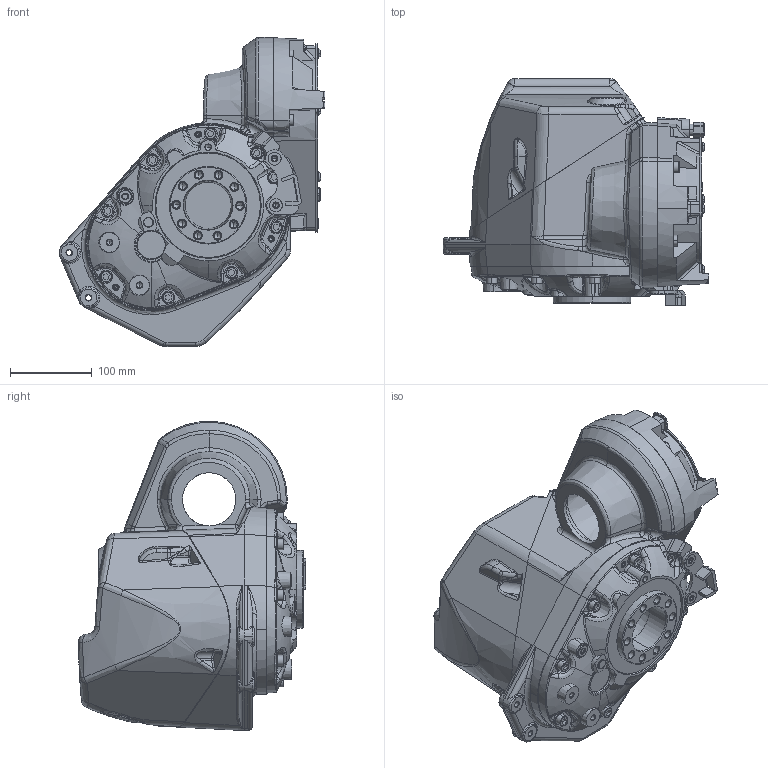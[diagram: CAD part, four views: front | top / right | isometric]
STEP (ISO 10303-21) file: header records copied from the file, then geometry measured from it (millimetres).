
FILE_DESCRIPTION (( 'STEP AP214' ), '1' );
FILE_NAME ('IRB1600ID_6-155_IRC5_rev0_LINK3.STEP', '2016-03-24T06:26:02', ( 'ABB' ), ( 'ABB' ), 'SwSTEP 2.0', 'SolidWorks 2014', '' );
FILE_SCHEMA (( 'AUTOMOTIVE_DESIGN' ));
Length unit declared in the file: millimetre
Products named in the file (1): IRB1600ID_6-155_IRC5_rev0_LINK3
Bounding box: 325.5 x 277.98 x 378.52 mm (x, y, z)
Volume: 11500876.9 mm3; surface area: 746914.9 mm2
Topology: 42 solids, 44 shells, 1883 faces, 4679 edges, 2922 vertices
Faces by surface type: cylinder 572, plane 493, bspline 384, cone 251, torus 171, sphere 12
Entity records: 93240 total; most frequent: CARTESIAN_POINT 51461, ORIENTED_EDGE 9236, DIRECTION 7652, EDGE_CURVE 4618, AXIS2_PLACEMENT_3D 3078, VERTEX_POINT 2922, EDGE_LOOP 2052, FACE_OUTER_BOUND 1883
